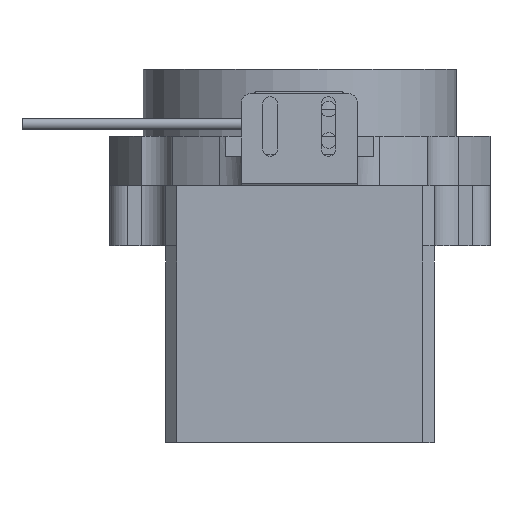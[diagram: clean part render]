
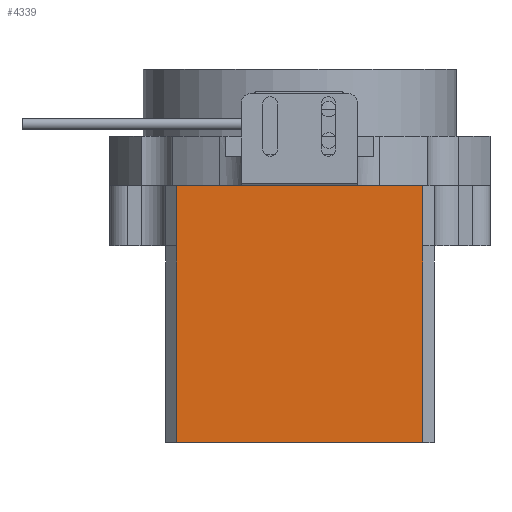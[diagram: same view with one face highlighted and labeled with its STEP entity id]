
A CAD part, front view. The second image highlights one B-rep face of the part: STEP entity #4339.
In plain terms, the highlighted planar face has unit normal (0, -1, 0).
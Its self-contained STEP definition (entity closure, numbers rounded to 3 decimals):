
#397 = EDGE_CURVE ( 'NONE', #7267, #4437, #4401, .T. ) ;
#564 = DIRECTION ( 'NONE',  ( -1., 0., 0. ) ) ;
#588 = VERTEX_POINT ( 'NONE', #1252 ) ;
#711 = VECTOR ( 'NONE', #2296, 1000. ) ;
#751 = VERTEX_POINT ( 'NONE', #7817 ) ;
#763 = EDGE_CURVE ( 'NONE', #588, #4437, #2240, .T. ) ;
#831 = CARTESIAN_POINT ( 'NONE',  ( -58.088, -39.96, 41.75 ) ) ;
#864 = DIRECTION ( 'NONE',  ( 1., 0., 0. ) ) ;
#932 = ORIENTED_EDGE ( 'NONE', *, *, #7927, .T. ) ;
#938 = CARTESIAN_POINT ( 'NONE',  ( -28.088, -39.96, -41.75 ) ) ;
#1250 = EDGE_CURVE ( 'NONE', #751, #7388, #3012, .T. ) ;
#1252 = CARTESIAN_POINT ( 'NONE',  ( -85.588, -39.96, 2.25 ) ) ;
#2022 = PLANE ( 'NONE',  #7882 ) ;
#2167 = DIRECTION ( 'NONE',  ( 0., 0., -1. ) ) ;
#2240 = LINE ( 'NONE', #4718, #2852 ) ;
#2296 = DIRECTION ( 'NONE',  ( 1., 0., 0. ) ) ;
#2682 = CARTESIAN_POINT ( 'NONE',  ( -85.588, -39.96, -41.75 ) ) ;
#2795 = LINE ( 'NONE', #5761, #4328 ) ;
#2852 = VECTOR ( 'NONE', #7230, 1000. ) ;
#3012 = LINE ( 'NONE', #5399, #711 ) ;
#3804 = VERTEX_POINT ( 'NONE', #4513 ) ;
#3938 = EDGE_LOOP ( 'NONE', ( #932, #6130, #7901, #5370, #4503, #6330 ) ) ;
#3941 = VECTOR ( 'NONE', #564, 1000. ) ;
#4328 = VECTOR ( 'NONE', #2167, 1000. ) ;
#4333 = VECTOR ( 'NONE', #7860, 1000. ) ;
#4339 = ADVANCED_FACE ( 'NONE', ( #4703 ), #2022, .F. ) ;
#4401 = LINE ( 'NONE', #938, #3941 ) ;
#4437 = VERTEX_POINT ( 'NONE', #2682 ) ;
#4503 = ORIENTED_EDGE ( 'NONE', *, *, #7265, .T. ) ;
#4513 = CARTESIAN_POINT ( 'NONE',  ( -30.588, -39.96, 2.25 ) ) ;
#4703 = FACE_OUTER_BOUND ( 'NONE', #3938, .T. ) ;
#4718 = CARTESIAN_POINT ( 'NONE',  ( -85.588, -39.96, 41.75 ) ) ;
#5370 = ORIENTED_EDGE ( 'NONE', *, *, #6052, .T. ) ;
#5399 = CARTESIAN_POINT ( 'NONE',  ( -58.088, -39.96, 15.75 ) ) ;
#5539 = CARTESIAN_POINT ( 'NONE',  ( -30.588, -39.96, 2.25 ) ) ;
#5543 = CARTESIAN_POINT ( 'NONE',  ( -30.588, -39.96, 15.75 ) ) ;
#5696 = LINE ( 'NONE', #5539, #7855 ) ;
#5761 = CARTESIAN_POINT ( 'NONE',  ( -85.588, -39.96, 41.75 ) ) ;
#6052 = EDGE_CURVE ( 'NONE', #7267, #3804, #5696, .T. ) ;
#6130 = ORIENTED_EDGE ( 'NONE', *, *, #763, .T. ) ;
#6330 = ORIENTED_EDGE ( 'NONE', *, *, #1250, .F. ) ;
#6862 = DIRECTION ( 'NONE',  ( 0., 0., 1. ) ) ;
#7230 = DIRECTION ( 'NONE',  ( 0., 0., -1. ) ) ;
#7265 = EDGE_CURVE ( 'NONE', #3804, #7388, #7318, .T. ) ;
#7267 = VERTEX_POINT ( 'NONE', #7364 ) ;
#7318 = LINE ( 'NONE', #7819, #4333 ) ;
#7364 = CARTESIAN_POINT ( 'NONE',  ( -30.588, -39.96, -41.75 ) ) ;
#7388 = VERTEX_POINT ( 'NONE', #5543 ) ;
#7802 = DIRECTION ( 'NONE',  ( 0., 1., 0. ) ) ;
#7817 = CARTESIAN_POINT ( 'NONE',  ( -85.588, -39.96, 15.75 ) ) ;
#7819 = CARTESIAN_POINT ( 'NONE',  ( -30.588, -39.96, 15.75 ) ) ;
#7855 = VECTOR ( 'NONE', #6862, 1000. ) ;
#7860 = DIRECTION ( 'NONE',  ( 0., 0., 1. ) ) ;
#7882 = AXIS2_PLACEMENT_3D ( 'NONE', #831, #7802, #864 ) ;
#7901 = ORIENTED_EDGE ( 'NONE', *, *, #397, .F. ) ;
#7927 = EDGE_CURVE ( 'NONE', #751, #588, #2795, .T. ) ;
